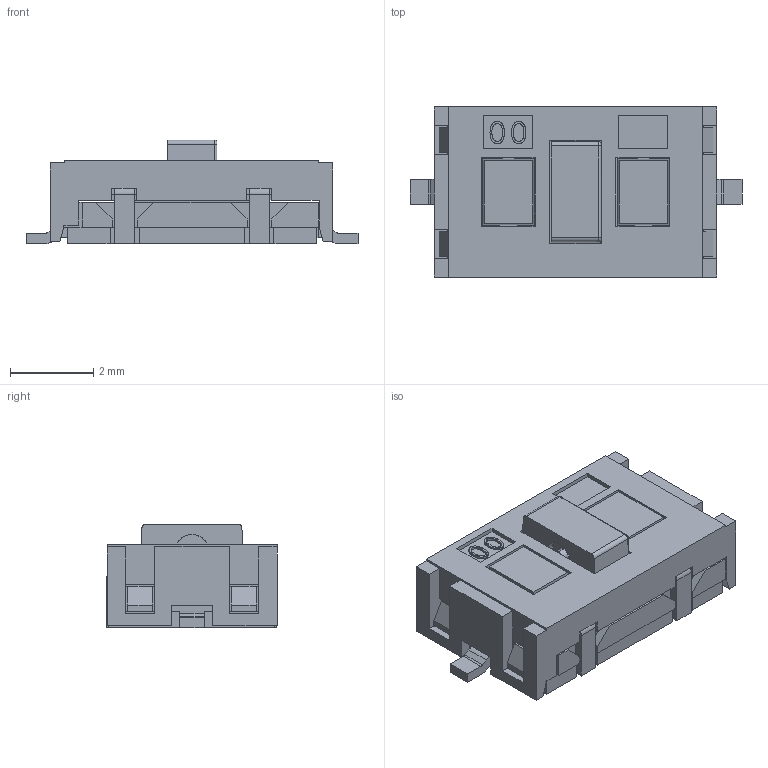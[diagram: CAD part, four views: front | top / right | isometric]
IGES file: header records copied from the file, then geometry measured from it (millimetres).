
Start section: SolidWorks IGES file using analytic representation for surfaces
Global section: file name: I:\J-暫存區\720\TML-3.IGS,15; native system: HSolidWorks 2008; preprocessor: SolidWorks 2008; author: 820201; date: 120523.102104; units: millimetre
Bounding box: 8 x 4.1 x 2.5 mm (x, y, z)
Surface area: 323.8 mm2 (no closed solid volume)
Topology: 0 solids, 0 shells, 711 faces, 5012 edges, 5005 vertices
Faces by surface type: bspline 570, revolution 141
